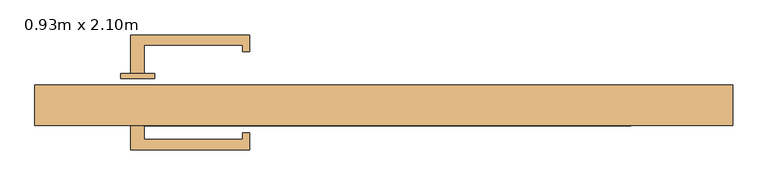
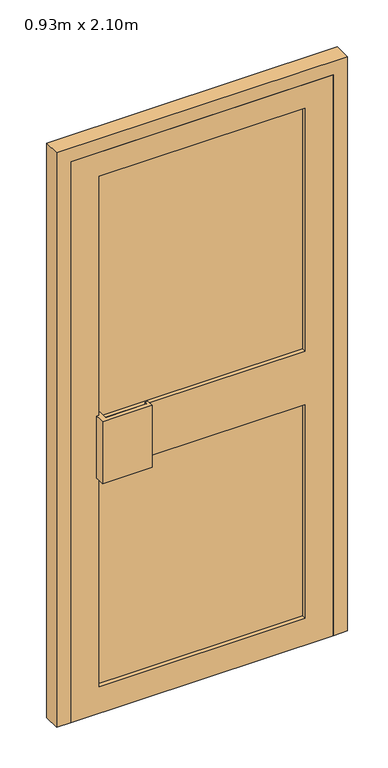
"""IFC4 building model written with IfcOpenShell, lengths in millimetres: door geometry, PVC Panneau Vitré - Traverse : 0.93m x 2.10m."""

from ifc_helpers import new_model, si_unit, point, frame, origin, place, context, project, spatial, polyline, ellipse_curve, trimmed, outline, extrude, faceted_brep, source, transform, mapped, element, save
from ifc_brep_helpers import plane_surface, extruded_surface, advanced_brep


def door_0_93m_x_2_10m_03cb1a60(model_context):
    return source(origin(), model_context, "Body", "SolidModel", [
        advanced_brep(
        [(-338.2140438, -40.7312497, 875.0), (-338.2140438, -40.7312497, 1125.0), (-388.2140438, -40.7312497, 1125.0), (-388.2140438, -40.7312497, 875.0), (-363.1067757, -40.7312497, 953.6170149), (-363.1067757, -40.7312497, 913.6170149), (-338.2140438, -32.7312497, 875.0), (-388.2140438, -32.7312497, 875.0), (-388.2140438, -32.7312497, 1125.0), (-338.2140438, -32.7312497, 1125.0), (-363.1067757, -32.7312497, 953.6170149), (-363.1067757, -32.7312497, 913.6170149)],
        [
            (0, 1),
            (1, 2),
            (2, 3),
            (3, 0),
            (4, 5, ellipse_curve(frame((-363.1067757, -40.7312497, 933.6170149), z_axis=(0.0, 1.0, 0.0), x_axis=(0.0, 0.0, -1.0)), 20.0, 7.0010983)),
            (5, 4, ellipse_curve(frame((-363.1067757, -40.7312497, 933.6170149), z_axis=(0.0, 1.0, 0.0), x_axis=(0.0, 0.0, -1.0)), 20.0, 7.0010983)),
            (6, 7),
            (7, 8),
            (8, 9),
            (9, 6),
            (10, 11, ellipse_curve(frame((-363.1067757, -32.7312497, 933.6170149), z_axis=(0.0, -1.0, 0.0), x_axis=(0.0, 0.0, -1.0)), 20.0, 7.0010983)),
            (11, 10, ellipse_curve(frame((-363.1067757, -32.7312497, 933.6170149), z_axis=(0.0, -1.0, 0.0), x_axis=(0.0, 0.0, -1.0)), 20.0, 7.0010983)),
            (0, 6),
            (9, 1),
            (8, 2),
            (7, 3),
            (4, 10),
            (11, 5),
        ],
        [
            plane_surface(frame((-338.2140438, -40.7312497, 1100.0), z_axis=(0.0, -1.0, 0.0), x_axis=(0.0, 0.0, 1.0))),
            plane_surface(frame((-338.2140438, -32.7312497, 1100.0), z_axis=(0.0, 1.0, 0.0), x_axis=(0.0, 0.0, -1.0))),
            plane_surface(frame((-338.2140438, -40.7312497, 875.0), z_axis=(1.0, 0.0, 0.0), x_axis=(0.0, 1.0, 0.0))),
            plane_surface(frame((-338.2140438, -40.7312497, 1125.0), z_axis=(0.0, 0.0, 1.0), x_axis=(0.0, 1.0, 0.0))),
            plane_surface(frame((-388.2140438, -40.7312497, 1125.0), z_axis=(-1.0, 0.0, 0.0), x_axis=(0.0, 1.0, 0.0))),
            plane_surface(frame((-388.2140438, -40.7312497, 875.0), z_axis=(0.0, 0.0, -1.0), x_axis=(0.0, 1.0, 0.0))),
            extruded_surface(trimmed(ellipse_curve(frame((-363.1067757, -24.7312497, 933.6170149), z_axis=(0.0, 1.0, 0.0), x_axis=(0.0, 0.0, -1.0)), 20.0, 7.0010983), [point((-363.1067757, -24.7312497, 953.6170149))], [point((-363.1067757, -24.7312497, 913.6170149))], True, "CARTESIAN"), (0.0, -8.0, 0.0), 8.0),
            extruded_surface(trimmed(ellipse_curve(frame((-363.1067757, -24.7312497, 933.6170149), z_axis=(0.0, 1.0, 0.0), x_axis=(0.0, 0.0, -1.0)), 20.0, 7.0010983), [point((-363.1067757, -24.7312497, 913.6170149))], [point((-363.1067757, -24.7312497, 953.6170149))], True, "CARTESIAN"), (0.0, -8.0, 0.0), 8.0),
        ],
        [
            (0, [[1, 2, 3, 4], [5, 6]]),
            (1, [[7, 8, 9, 10], [11, 12]]),
            (2, [[-1, 13, -10, 14]]),
            (3, [[-2, -14, -9, 15]]),
            (4, [[-3, -15, -8, 16]]),
            (5, [[-4, -16, -7, -13]]),
            (6, [[-5, 17, -12, 18]]),
            (7, [[-6, -18, -11, -17]]),
        ],
    ),
        extrude(outline(polyline([(-373.5, 24.0969165), (-198.2140438, 24.0969165), (-198.2140438, -0.9030835), (-208.2140438, -0.9030835), (-208.2140438, 9.0969165), (-353.5, 9.0969165), (-353.5, -32.7312497), (-373.5, -32.7312497), (-373.5, 24.0969165)])), frame((0.0, 0.0, 883.8962493), z_axis=(0.0, 0.0, 1.0), x_axis=(1.0, 0.0, 0.0)), (0.0, 0.0, 1.0), 231.5058955),
        extrude(outline(polyline([(-373.5, -145.5594159), (-373.5, -88.7312497), (-353.5, -88.7312497), (-353.5, -130.5594159), (-208.2140438, -130.5594159), (-208.2140438, -120.5594159), (-198.2140438, -120.5594159), (-198.2140438, -145.5594159), (-373.5, -145.5594159)])), frame((0.0, 0.0, 883.8962493), z_axis=(0.0, 0.0, 1.0), x_axis=(1.0, 0.0, 0.0)), (0.0, 0.0, 1.0), 231.5058955),
        advanced_brep(
        [(-338.2140438, -88.7312497, 875.0), (-338.2140438, -88.7312497, 1125.0), (-388.2140438, -88.7312497, 1125.0), (-388.2140438, -88.7312497, 875.0), (-363.1067757, -88.7312497, 953.6170149), (-363.1067757, -88.7312497, 913.6170149), (-338.2140438, -80.7312497, 875.0), (-388.2140438, -80.7312497, 875.0), (-388.2140438, -80.7312497, 1125.0), (-338.2140438, -80.7312497, 1125.0), (-363.1067757, -80.7312497, 953.6170149), (-363.1067757, -80.7312497, 913.6170149)],
        [
            (0, 1),
            (1, 2),
            (2, 3),
            (3, 0),
            (4, 5, ellipse_curve(frame((-363.1067757, -88.7312497, 933.6170149), z_axis=(0.0, 1.0, 0.0), x_axis=(0.0, 0.0, -1.0)), 20.0, 7.0010983)),
            (5, 4, ellipse_curve(frame((-363.1067757, -88.7312497, 933.6170149), z_axis=(0.0, 1.0, 0.0), x_axis=(0.0, 0.0, -1.0)), 20.0, 7.0010983)),
            (6, 7),
            (7, 8),
            (8, 9),
            (9, 6),
            (10, 11, ellipse_curve(frame((-363.1067757, -80.7312497, 933.6170149), z_axis=(0.0, -1.0, 0.0), x_axis=(0.0, 0.0, -1.0)), 20.0, 7.0010983)),
            (11, 10, ellipse_curve(frame((-363.1067757, -80.7312497, 933.6170149), z_axis=(0.0, -1.0, 0.0), x_axis=(0.0, 0.0, -1.0)), 20.0, 7.0010983)),
            (0, 6),
            (9, 1),
            (8, 2),
            (7, 3),
            (4, 10),
            (11, 5),
        ],
        [
            plane_surface(frame((-338.2140438, -88.7312497, 1100.0), z_axis=(0.0, -1.0, 0.0), x_axis=(0.0, 0.0, 1.0))),
            plane_surface(frame((-338.2140438, -80.7312497, 1100.0), z_axis=(0.0, 1.0, 0.0), x_axis=(0.0, 0.0, -1.0))),
            plane_surface(frame((-338.2140438, -88.7312497, 875.0), z_axis=(1.0, 0.0, 0.0), x_axis=(0.0, 1.0, 0.0))),
            plane_surface(frame((-338.2140438, -88.7312497, 1125.0), z_axis=(0.0, 0.0, 1.0), x_axis=(0.0, 1.0, 0.0))),
            plane_surface(frame((-388.2140438, -88.7312497, 1125.0), z_axis=(-1.0, 0.0, 0.0), x_axis=(0.0, 1.0, 0.0))),
            plane_surface(frame((-388.2140438, -88.7312497, 875.0), z_axis=(0.0, 0.0, -1.0), x_axis=(0.0, 1.0, 0.0))),
            extruded_surface(trimmed(ellipse_curve(frame((-363.1067757, -72.7312497, 933.6170149), z_axis=(0.0, 1.0, 0.0), x_axis=(0.0, 0.0, -1.0)), 20.0, 7.0010983), [point((-363.1067757, -72.7312497, 953.6170149))], [point((-363.1067757, -72.7312497, 913.6170149))], True, "CARTESIAN"), (0.0, -8.0, 0.0), 8.0),
            extruded_surface(trimmed(ellipse_curve(frame((-363.1067757, -72.7312497, 933.6170149), z_axis=(0.0, 1.0, 0.0), x_axis=(0.0, 0.0, -1.0)), 20.0, 7.0010983), [point((-363.1067757, -72.7312497, 913.6170149))], [point((-363.1067757, -72.7312497, 953.6170149))], True, "CARTESIAN"), (0.0, -8.0, 0.0), 8.0),
        ],
        [
            (0, [[1, 2, 3, 4], [5, 6]]),
            (1, [[7, 8, 9, 10], [11, 12]]),
            (2, [[-1, 13, -10, 14]]),
            (3, [[-2, -14, -9, 15]]),
            (4, [[-3, -15, -8, 16]]),
            (5, [[-4, -16, -7, -13]]),
            (6, [[-5, 17, -12, 18]]),
            (7, [[-6, -18, -11, -17]]),
        ],
    ),
        faceted_brep([(-515.0, -110.0, 0.0), (-515.0, -50.0, 0.0), (-450.0, -50.0, 0.0), (-450.0, -70.0, 0.0), (-465.0, -70.0, 0.0), (-465.0, -110.0, 0.0), (-515.0, -110.0, 2150.0), (-515.0, -50.0, 2150.0), (515.0, -50.0, 2150.0), (515.0, -50.0, 0.0), (450.0, -50.0, 0.0), (450.0, -50.0, 2085.0), (-450.0, -50.0, 2085.0), (-450.0, -70.0, 2085.0), (450.0, -70.0, 2085.0), (450.0, -70.0, 0.0), (465.0, -70.0, 0.0), (465.0, -70.0, 2100.0), (-465.0, -70.0, 2100.0), (-465.0, -110.0, 2100.0), (465.0, -110.0, 2100.0), (465.0, -110.0, 0.0), (515.0, -110.0, 0.0), (515.0, -110.0, 2150.0)], [[[0, 1, 2, 3, 4, 5]], [[1, 0, 6, 7]], [[2, 1, 7, 8, 9, 10, 11, 12]], [[3, 2, 12, 13]], [[4, 3, 13, 14, 15, 16, 17, 18]], [[5, 4, 18, 19]], [[0, 5, 19, 20, 21, 22, 23, 6]], [[8, 23, 22, 9]], [[22, 21, 16, 15, 10, 9]], [[14, 11, 10, 15]], [[20, 17, 16, 21]], [[7, 6, 23, 8]], [[13, 12, 11, 14]], [[19, 18, 17, 20]]]),
        extrude(outline(polyline([(365.0, -95.0), (-365.0, -95.0), (-365.0, -85.0), (365.0, -85.0), (365.0, -95.0)])), frame((0.0, 0.0, 1100.0), z_axis=(0.0, 0.0, 1.0), x_axis=(1.0, 0.0, 0.0)), (0.0, 0.0, 1.0), 910.0),
        extrude(outline(polyline([(365.0, -95.0), (-365.0, -95.0), (-365.0, -85.0), (365.0, -85.0), (365.0, -95.0)])), frame((0.0, 0.0, 100.0), z_axis=(0.0, 0.0, 1.0), x_axis=(1.0, 0.0, 0.0)), (0.0, 0.0, 1.0), 800.0),
        extrude(outline(polyline([(2100.0, -465.0), (0.0, -465.0), (0.0, 465.0), (2100.0, 465.0), (2100.0, -465.0)]), holes=[polyline([(2010.0, 365.0), (1100.0, 365.0), (1100.0, -365.0), (2010.0, -365.0), (2010.0, 365.0)]), polyline([(100.0, 365.0), (100.0, -365.0), (900.0, -365.0), (900.0, 365.0), (100.0, 365.0)])]), frame((0.0, -110.0, 0.0), z_axis=(0.0, 1.0, 0.0), x_axis=(0.0, 0.0, 1.0)), (0.0, 0.0, 1.0), 40.0),
    ])


if __name__ == "__main__":
    model = new_model("IFC4")
    model_context = context("Model", 3, world=origin())
    ifc_project = project(units=[si_unit("LENGTHUNIT", "METRE", prefix="MILLI")], contexts=[model_context])
    site = spatial("IfcSite", under=ifc_project)
    building = spatial("IfcBuilding", under=site)
    placement = place(None, origin())
    door_0_93m_x_2_10m_shape = door_0_93m_x_2_10m_03cb1a60(model_context)
    element("IfcDoor", 1, ObjectType="PVC Panneau Vitré - Traverse : 0.93m x 2.10m", at=placement, inside=building, context=model_context, shape_type="MappedRepresentation", body=[
        mapped(door_0_93m_x_2_10m_shape, transform((0.0, 0.0, 0.0), x_axis=(1.0, 0.0, 0.0), y_axis=(0.0, 1.0, 0.0), z_axis=(0.0, 0.0, 1.0))),
    ])
    save(model, "model.ifc")
